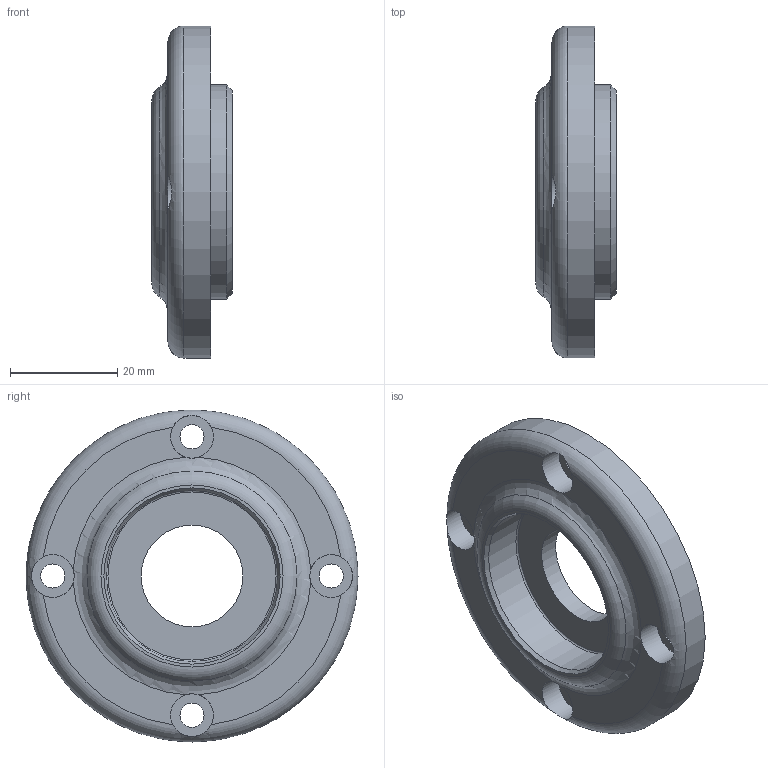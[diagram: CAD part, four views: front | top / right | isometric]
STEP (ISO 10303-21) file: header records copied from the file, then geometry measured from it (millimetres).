
FILE_DESCRIPTION(/* description */ (''),/* implementation_level */ '2;1');
FILE_NAME(/* name */ '',/* time_stamp */ '2024-09-02T11:26:33+09:00',/* author */ ('jhkim'),/* organization */ (''),/* preprocessor_version */ 'ST-DEVELOPER v20',/* originating_system */ 'Autodesk Inventor 2025',/* authorisation */ '');
FILE_SCHEMA (('AUTOMOTIVE_DESIGN { 1 0 10303 214 3 1 1 }'));
Length unit declared in the file: millimetre
Products named in the file (1): 앞커버
Bounding box: 15 x 62 x 62 mm (x, y, z)
Volume: 21004.5 mm3; surface area: 9026.3 mm2
Topology: 1 solids, 1 shells, 32 faces, 80 edges, 53 vertices
Faces by surface type: plane 13, cylinder 12, torus 5, cone 2
Full cylindrical faces by diameter (mm): 4.5 x4, 8 x4, 19 x1, 32 x1, 40 x1, 62 x1
Entity records: 1211 total; most frequent: CARTESIAN_POINT 292, DIRECTION 192, ORIENTED_EDGE 160, AXIS2_PLACEMENT_3D 89, EDGE_CURVE 80, CIRCLE 56, VERTEX_POINT 53, EDGE_LOOP 45
